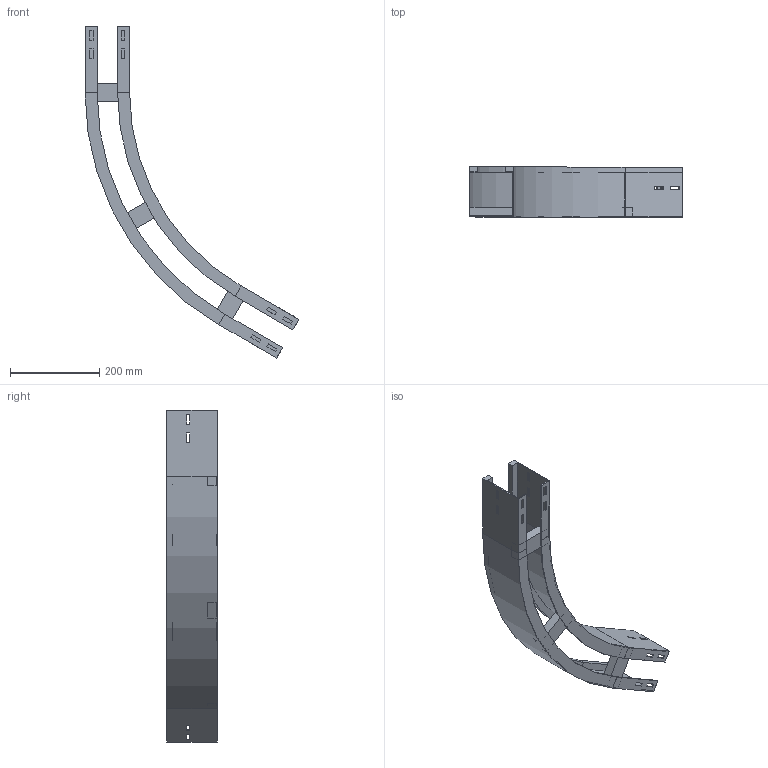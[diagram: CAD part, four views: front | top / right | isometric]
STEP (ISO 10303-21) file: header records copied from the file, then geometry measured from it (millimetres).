
FILE_DESCRIPTION (( 'STEP AP214' ), '1' );
FILE_NAME ('13B5J100.step', '2025-02-21T15:18:42', ( '' ), ( '' ), 'SwSTEP 2.0', 'SolidWorks 2023', '' );
FILE_SCHEMA (( 'AUTOMOTIVE_DESIGN' ));
Length unit declared in the file: millimetre
Products named in the file (4): 13B5J100; A2_LONGH.INTERNO 60°_H112.5_R500; A2_LONGH.ESTERNO 60°_H112.5_R500+100; TRAVERSINO_100
Assembly tree (5 placements, depth 2):
  13B5J100
    A2_LONGH.INTERNO 60°_H112.5_R500
    A2_LONGH.ESTERNO 60°_H112.5_R500+100
    TRAVERSINO_100  x3
Bounding box: 479.9 x 112.5 x 744.62 mm (x, y, z)
Volume: 1046497.4 mm3; surface area: 583350.3 mm2
Topology: 5 solids, 5 shells, 134 faces, 340 edges, 216 vertices
Faces by surface type: plane 126, cylinder 8
Entity records: 3821 total; most frequent: CARTESIAN_POINT 646, ORIENTED_EDGE 632, DIRECTION 592, EDGE_CURVE 316, VECTOR 300, LINE 300, VERTEX_POINT 200, EDGE_LOOP 154
